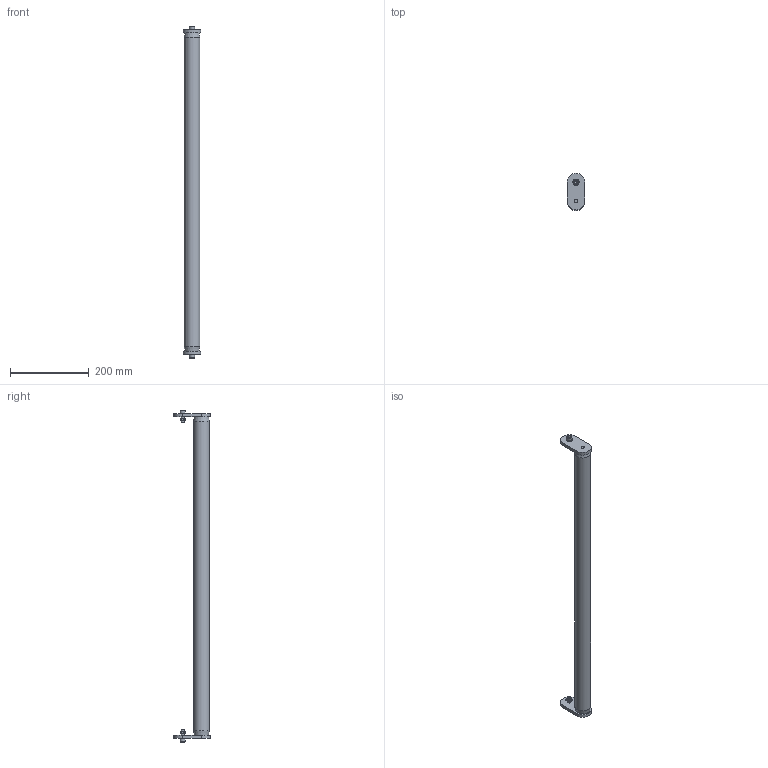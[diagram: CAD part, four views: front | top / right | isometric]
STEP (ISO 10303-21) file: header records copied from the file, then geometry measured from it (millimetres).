
FILE_DESCRIPTION (( 'STEP AP214' ), '1' );
FILE_NAME ('983-004-800.STEP', '2022-10-10T12:25:59', ( '' ), ( '' ), 'SwSTEP 2.0', 'SolidWorks 2022', '' );
FILE_SCHEMA (( 'AUTOMOTIVE_DESIGN' ));
Length unit declared in the file: millimetre
Products named in the file (8): 910-011; 983-004-800; 982-010-800; 982-009; CHC M8X25 + RP8; CHC THE_910-053H; 983-003; RONDELLE_910-111
Assembly tree (8 placements, depth 4):
  983-004-800
    983-003  x2
      982-009
      910-011
      CHC M8X25 + RP8
        CHC THE_910-053H
        RONDELLE_910-111
    982-010-800
Bounding box: 45 x 93 x 845.2 mm (x, y, z)
Volume: 1080028.9 mm3; surface area: 127823.1 mm2
Topology: 9 solids, 9 shells, 119 faces, 261 edges, 166 vertices
Faces by surface type: plane 60, cylinder 33, cone 22, torus 4
Full cylindrical faces by diameter (mm): 6 x2, 6.8 x2, 7.98 x2, 8 x4, 8.4 x2, 8.5 x4, 13 x2, 16 x2, 40 x1
Entity records: 2038 total; most frequent: CARTESIAN_POINT 389, DIRECTION 312, ORIENTED_EDGE 228, AXIS2_PLACEMENT_3D 131, EDGE_CURVE 114, EDGE_LOOP 96, VERTEX_POINT 84, FACE_OUTER_BOUND 78
